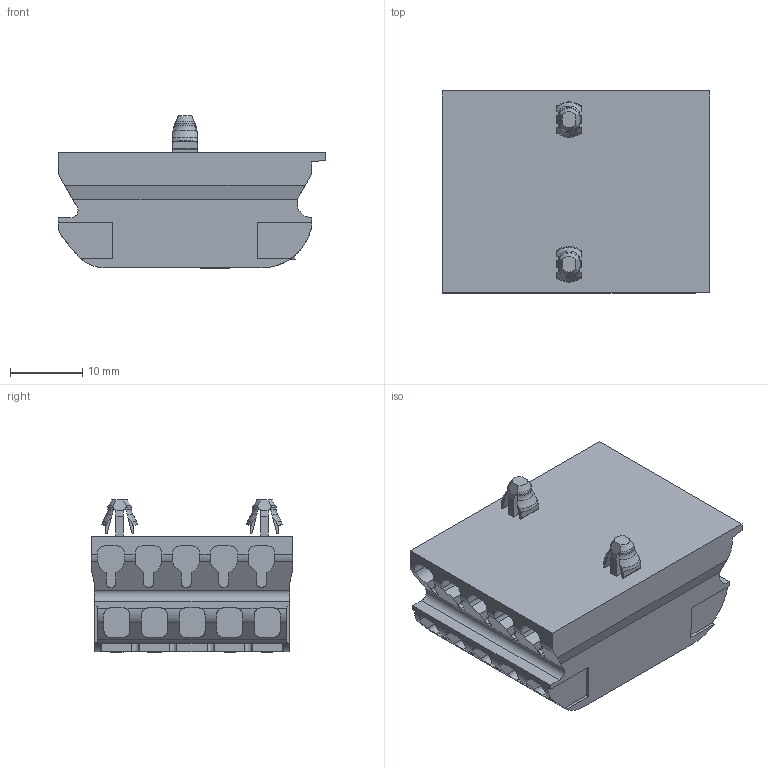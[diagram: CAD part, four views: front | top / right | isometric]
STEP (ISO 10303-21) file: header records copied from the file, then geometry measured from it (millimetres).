
FILE_DESCRIPTION(/* description */ ('Unknown'),/* implementation_level */ '2;1');
FILE_NAME(/* name */ '024-30N-04',/* time_stamp */ '2024-10-29T11:11:46+01:00',/* author */ ('Unknown'),/* organization */ ('Unknown'),/* preprocessor_version */ 'ST-DEVELOPER v16.7',/* originating_system */ 'Solid Edge',/* authorisation */ 'Unknown');
FILE_SCHEMA (('AUTOMOTIVE_DESIGN {1 0 10303 214 3 1 1}'));
Length unit declared in the file: millimetre
Products named in the file (3): 024-30N-04; 024-309-03; 024-30N-02
Assembly tree (2 placements, depth 2):
  024-30N-04
    024-309-03
    024-30N-02
Bounding box: 36.95 x 27.9 x 21.01 mm (x, y, z)
Volume: 11788.9 mm3; surface area: 6733.5 mm2
Topology: 21 solids, 21 shells, 706 faces, 1943 edges, 1292 vertices
Faces by surface type: plane 505, cylinder 177, cone 12, torus 8, bspline 4
Full cylindrical faces by diameter (mm): 2.134 x5, 4.63 x1, 5.21 x1
Entity records: 22751 total; most frequent: CARTESIAN_POINT 4510, ORIENTED_EDGE 3872, DIRECTION 3586, EDGE_CURVE 1936, LINE 1390, VECTOR 1390, VERTEX_POINT 1292, AXIS2_PLACEMENT_3D 1098
